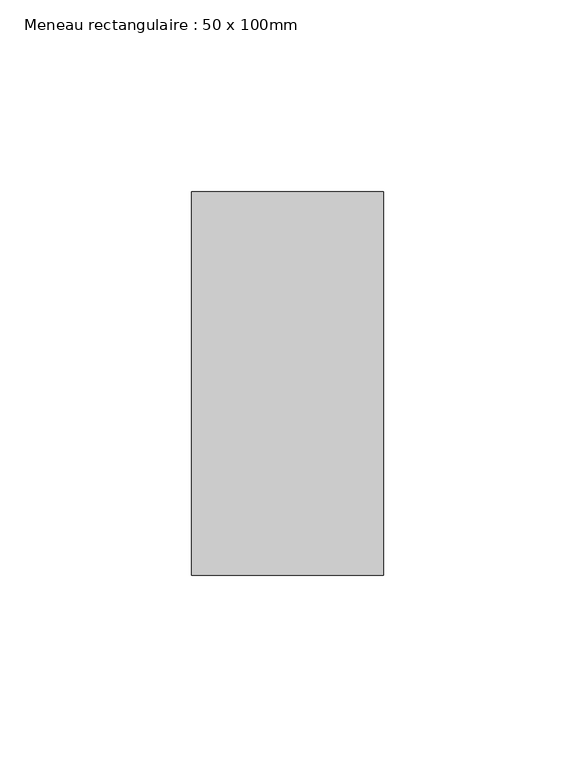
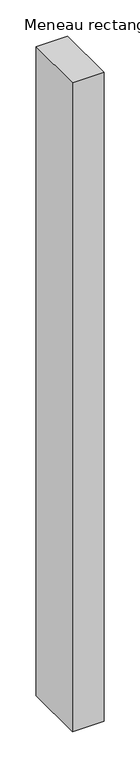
"""IFC4 building model written with IfcOpenShell, lengths in millimetres: member geometry, Meneau rectangulaire : 50 x 100mm."""

import ifcopenshell
import ifcopenshell.guid

model = None  # the IFC model being written
_history = None  # IfcOwnerHistory: only IFC2X3 demands one
_inside = {}  # id of a spatial element -> (the spatial element, [elements in it])
_under = {}  # id of a project, library or spatial element -> (it, [spatial elements below it])
_declared = {}  # id of a project -> (the project, [libraries it declares])
_typed = {}  # id of a type object -> (the type object, [elements of that type])
_made_of = {}  # id of a material, layer set ... -> (it, [elements and type objects made of it])


def new_model(schema):
    """Start an empty IFC model of exactly this schema.

    Asked for "IFC4X3", IfcOpenShell would pick the latest addendum, in which some entities
    have other attributes; the version numbers below select the first issue.
    IFC2X3 requires an IfcOwnerHistory on every rooted entity: one is made here for all.
    """
    global model, _history
    if schema == "IFC4X3":
        model = ifcopenshell.file(schema_version=(4, 3, 0, 0))
    else:
        model = ifcopenshell.file(schema=schema)
    _inside.clear()
    _under.clear()
    _declared.clear()
    _typed.clear()
    _made_of.clear()
    _history = None
    if model.schema == "IFC2X3":
        org = make("IfcOrganization", Name="unknown")
        user = make(
            "IfcPersonAndOrganization",
            ThePerson=make("IfcPerson", FamilyName="unknown"),
            TheOrganization=org,
        )
        app = make(
            "IfcApplication",
            ApplicationDeveloper=org,
            Version="unknown",
            ApplicationFullName="unknown",
            ApplicationIdentifier="unknown",
        )
        _history = make(
            "IfcOwnerHistory",
            OwningUser=user,
            OwningApplication=app,
            ChangeAction="ADDED",
            CreationDate=0,
        )
    return model


def make(cls, **values):
    """One entity of the class cls with the attributes given. An attribute that is None is left unset."""
    return model.create_entity(
        cls, **{name: value for name, value in values.items() if value is not None}
    )


def rooted(cls, **values):
    """An entity with a GlobalId (a new one), such as an element, a storey or a relation."""
    return make(cls, GlobalId=ifcopenshell.guid.new(), OwnerHistory=_history, **values)


def si_unit(unit_type, name, prefix=None):
    """IfcSIUnit, for example si_unit("LENGTHUNIT", "METRE", prefix="MILLI")."""
    return make("IfcSIUnit", UnitType=unit_type, Prefix=prefix, Name=name)


def assignment(units):
    """IfcUnitAssignment: the units of a project."""
    return None if units is None else make("IfcUnitAssignment", Units=units)


def point(xyz):
    """IfcCartesianPoint."""
    return None if xyz is None else make("IfcCartesianPoint", Coordinates=xyz)


def direction(xyz):
    """IfcDirection."""
    return None if xyz is None else make("IfcDirection", DirectionRatios=xyz)


def frame(location, z_axis=None, x_axis=None):
    """IfcAxis2Placement3D, a coordinate frame: its origin and axes. An axis left out is left unset."""
    return make(
        "IfcAxis2Placement3D",
        Location=point(location),
        Axis=direction(z_axis),
        RefDirection=direction(x_axis),
    )


def origin():
    """The frame at (0, 0, 0) with its axes left unset."""
    return frame((0.0, 0.0, 0.0))


def place(relative_to, where):
    """IfcLocalPlacement: puts the frame where relative to a parent placement (None: the world)."""
    return make(
        "IfcLocalPlacement", PlacementRelTo=relative_to, RelativePlacement=where
    )


def context(
    kind, dimensions, precision=None, world=None, true_north=None, identifier=None
):
    """IfcGeometricRepresentationContext, for example the 3D "Model" context."""
    return make(
        "IfcGeometricRepresentationContext",
        ContextIdentifier=identifier,
        ContextType=kind,
        CoordinateSpaceDimension=dimensions,
        Precision=precision,
        WorldCoordinateSystem=world,
        TrueNorth=true_north,
    )


def project(units=None, contexts=None):
    """IfcProject with its units and contexts."""
    return rooted(
        "IfcProject",
        Name="project",
        RepresentationContexts=contexts,
        UnitsInContext=assignment(units),
    )


def spatial(cls, under=None, at=None, **own):
    """A site, building, storey or space (cls), placed at a placement, below another one or the project."""
    s = rooted(cls, ObjectPlacement=at, **own)
    if under is not None:
        _under.setdefault(under.id(), (under, []))[1].append(s)
    return s


def polyline(points):
    """IfcPolyline through the points."""
    return make("IfcPolyline", Points=[point(p) for p in points])


def outline(outer, holes=None, kind="AREA"):
    """IfcArbitraryClosedProfileDef: a profile drawn as a closed curve; with holes, ...WithVoids."""
    if holes is None:
        return make("IfcArbitraryClosedProfileDef", ProfileType=kind, OuterCurve=outer)
    return make(
        "IfcArbitraryProfileDefWithVoids",
        ProfileType=kind,
        OuterCurve=outer,
        InnerCurves=holes,
    )


def extrude(swept, where, along, depth):
    """IfcExtrudedAreaSolid: the profile swept, set in the frame where, extruded along a direction by depth."""
    return make(
        "IfcExtrudedAreaSolid",
        SweptArea=swept,
        Position=where,
        ExtrudedDirection=direction(along),
        Depth=depth,
    )


def shape(context_of_items, identifier, shape_type, items):
    """IfcShapeRepresentation: the items that make up one representation, for example the "Body"."""
    return make(
        "IfcShapeRepresentation",
        ContextOfItems=context_of_items,
        RepresentationIdentifier=identifier,
        RepresentationType=shape_type,
        Items=items,
    )


def source(mapping_origin, context_of_items, identifier, shape_type, items):
    """IfcRepresentationMap: a shape defined once, which mapped items show again and again."""
    return make(
        "IfcRepresentationMap",
        MappingOrigin=mapping_origin,
        MappedRepresentation=shape(context_of_items, identifier, shape_type, items),
    )


def transform(
    local_origin,
    x_axis=None,
    y_axis=None,
    z_axis=None,
    scale=None,
    scale2=None,
    scale3=None,
    uniform=True,
):
    """IfcCartesianTransformationOperator3D, or its non-uniform kind. x_axis, y_axis, z_axis: its Axis1, 2, 3."""
    if uniform:
        return make(
            "IfcCartesianTransformationOperator3D",
            Axis1=direction(x_axis),
            Axis2=direction(y_axis),
            LocalOrigin=point(local_origin),
            Scale=scale,
            Axis3=direction(z_axis),
        )
    return make(
        "IfcCartesianTransformationOperator3DnonUniform",
        Axis1=direction(x_axis),
        Axis2=direction(y_axis),
        LocalOrigin=point(local_origin),
        Scale=scale,
        Axis3=direction(z_axis),
        Scale2=scale2,
        Scale3=scale3,
    )


def mapped(mapping_source, mapping_target):
    """IfcMappedItem: shows the shape of a source again, moved by a transform."""
    return make(
        "IfcMappedItem", MappingSource=mapping_source, MappingTarget=mapping_target
    )


def made_of(thing, what):
    """Note that an element or type object is made of a material, layer set ...; save() writes the relation."""
    if what is not None:
        _made_of.setdefault(what.id(), (what, []))[1].append(thing)
    return thing


def element(
    cls,
    number,
    at=None,
    inside=None,
    cuts=None,
    type_object=None,
    material=None,
    context=None,
    identifier="Body",
    shape_type=None,
    held_by="IfcProductDefinitionShape",
    body=None,
    shapes=None,
    **own,
):
    """One element of the class cls, such as IfcWall. Its Tag is "e" and its number.

    at: its placement. inside: the storey or other place that contains it. cuts: it is an
    opening in that element (IfcRelVoidsElement). A single representation is given by context,
    identifier, shape_type and body (its items); several are given by shapes. held_by: the class
    of the entity that holds the representations. save() writes the other relations.
    """
    e = rooted(cls, Tag="e%d" % number, ObjectPlacement=at, **own)
    if body is not None:
        shapes = [shape(context, identifier, shape_type, body)]
    if shapes is not None:
        e.Representation = make(held_by, Representations=shapes)
    if inside is not None:
        _inside.setdefault(inside.id(), (inside, []))[1].append(e)
    if cuts is not None:
        rooted(
            "IfcRelVoidsElement", RelatingBuildingElement=cuts, RelatedOpeningElement=e
        )
    if type_object is not None:
        _typed.setdefault(type_object.id(), (type_object, []))[1].append(e)
    return made_of(e, material)


def aggregate(whole, parts):
    """IfcRelAggregates: a whole, such as a stair, and the parts it consists of."""
    return rooted("IfcRelAggregates", RelatingObject=whole, RelatedObjects=parts)


def save(model, path):
    """Write the relations noted so far, then the file.

    IfcRelAggregates (storeys below a building ...), IfcRelContainedInSpatialStructure (elements
    in a storey), IfcRelDefinesByType, IfcRelAssociatesMaterial and IfcRelDeclares: one each for
    every whole, place, type object, material and project.
    """
    for whole, parts in _under.values():
        aggregate(whole, parts)
    for where, things in _inside.values():
        rooted(
            "IfcRelContainedInSpatialStructure",
            RelatedElements=things,
            RelatingStructure=where,
        )
    for kind, things in _typed.values():
        rooted("IfcRelDefinesByType", RelatedObjects=things, RelatingType=kind)
    for what, things in _made_of.values():
        rooted("IfcRelAssociatesMaterial", RelatedObjects=things, RelatingMaterial=what)
    for by, libraries in _declared.values():
        rooted("IfcRelDeclares", RelatingContext=by, RelatedDefinitions=libraries)
    model.write(path)


def meneau_rectangulaire_50_x_100mm_10496985(model_context):
    return source(origin(), model_context, "Body", "SweptSolid", [
        extrude(outline(polyline([(25.0, 50.0), (25.0, -50.0), (-25.0, -50.0), (-25.0, 50.0), (25.0, 50.0)])), frame((0.0, 0.0, -1090.8573191), z_axis=(0.0, 0.0, 1.0), x_axis=(1.0, 0.0, 0.0)), (0.0, 0.0, 1.0), 1090.8573191),
    ])


if __name__ == "__main__":
    model = new_model("IFC4")
    model_context = context("Model", 3, world=origin())
    ifc_project = project(units=[si_unit("LENGTHUNIT", "METRE", prefix="MILLI")], contexts=[model_context])
    site = spatial("IfcSite", under=ifc_project)
    building = spatial("IfcBuilding", under=site)
    placement = place(None, origin())
    meneau_rectangulaire_50_x_100mm_shape = meneau_rectangulaire_50_x_100mm_10496985(model_context)
    element("IfcMember", 1, ObjectType="Meneau rectangulaire : 50 x 100mm", at=placement, inside=building, context=model_context, shape_type="MappedRepresentation", body=[
        mapped(meneau_rectangulaire_50_x_100mm_shape, transform((0.0, 0.0, 0.0), x_axis=(1.0, 0.0, 0.0), y_axis=(0.0, 1.0, 0.0), z_axis=(0.0, 0.0, 1.0))),
    ])
    save(model, "model.ifc")
